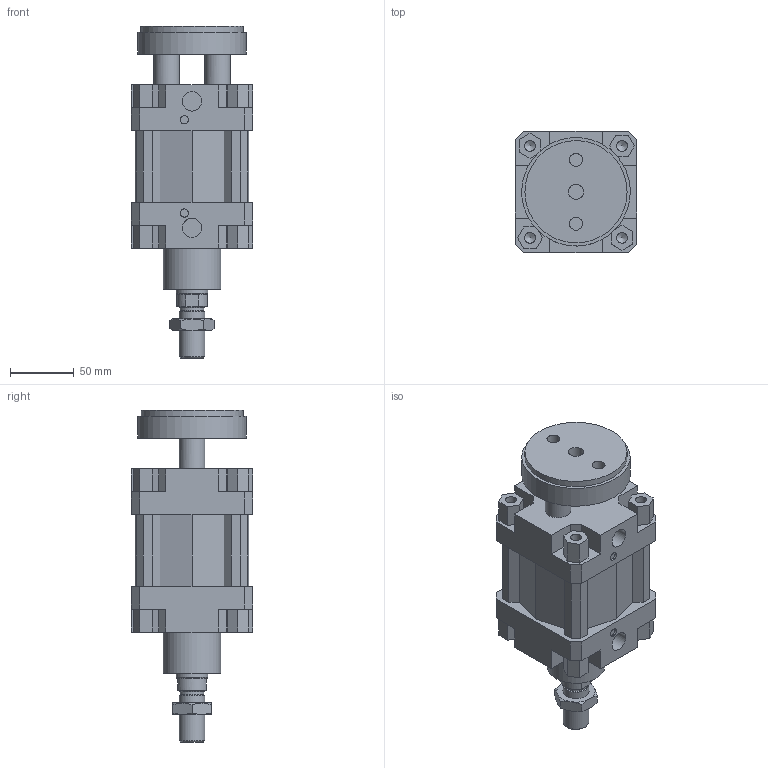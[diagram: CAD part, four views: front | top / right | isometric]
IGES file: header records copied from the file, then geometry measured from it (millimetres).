
Global section: file name: 132#_080_0000_02; native system: Autodesk Inventor 2014; preprocessor: unknown; author: A. Manieri; date: 20161006.162249; units: millimetre
Bounding box: 95 x 95 x 260 mm (x, y, z)
Volume: 1156530.2 mm3; surface area: 180174 mm2
Topology: 3 solids, 3 shells, 220 faces, 589 edges, 397 vertices
Faces by surface type: bspline 220
